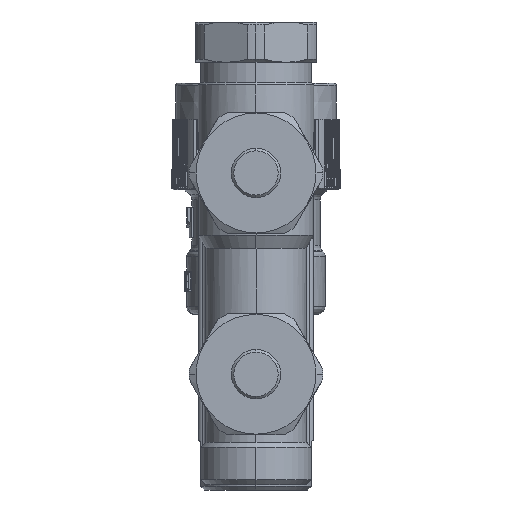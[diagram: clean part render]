
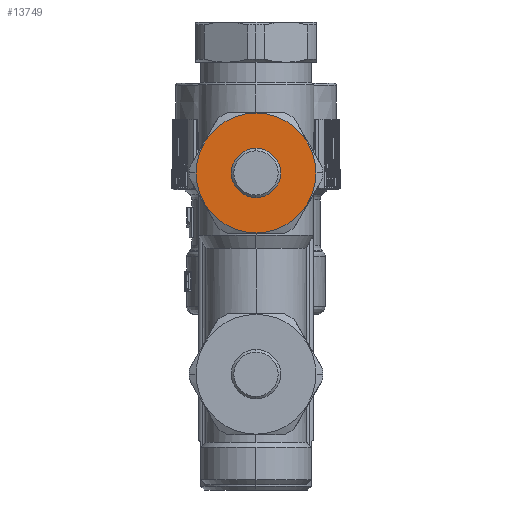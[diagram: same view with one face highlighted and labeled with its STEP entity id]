
A CAD part, front view. The second image highlights one B-rep face of the part: STEP entity #13749.
In plain terms, the highlighted planar face has unit normal (0, -1, 0).
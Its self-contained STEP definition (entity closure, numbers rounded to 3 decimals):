
#1531 = CARTESIAN_POINT ( 'NONE',  ( 0., -5.5, 66.9 ) ) ;
#1717 = EDGE_LOOP ( 'NONE', ( #9986, #39035 ) ) ;
#1925 = AXIS2_PLACEMENT_3D ( 'NONE', #39015, #13993, #17099 ) ;
#2008 = DIRECTION ( 'NONE',  ( 0., 1., 0. ) ) ;
#3081 = VERTEX_POINT ( 'NONE', #1531 ) ;
#3442 = CIRCLE ( 'NONE', #7962, 11.9 ) ;
#4151 = CIRCLE ( 'NONE', #43879, 11.9 ) ;
#6042 = ORIENTED_EDGE ( 'NONE', *, *, #30550, .T. ) ;
#6796 = CARTESIAN_POINT ( 'NONE',  ( -11.9, -5.5, 62. ) ) ;
#7962 = AXIS2_PLACEMENT_3D ( 'NONE', #28957, #43512, #33170 ) ;
#8089 = VERTEX_POINT ( 'NONE', #6796 ) ;
#8328 = VERTEX_POINT ( 'NONE', #30252 ) ;
#8900 = EDGE_CURVE ( 'NONE', #16918, #8089, #4151, .T. ) ;
#9986 = ORIENTED_EDGE ( 'NONE', *, *, #8900, .F. ) ;
#12166 = DIRECTION ( 'NONE',  ( 0., 1., 0. ) ) ;
#12522 = EDGE_CURVE ( 'NONE', #8089, #16918, #3442, .T. ) ;
#13612 = DIRECTION ( 'NONE',  ( 0., 1., 0. ) ) ;
#13749 = ADVANCED_FACE ( 'NONE', ( #38480, #29017 ), #29739, .F. ) ;
#13993 = DIRECTION ( 'NONE',  ( 0., 1., 0. ) ) ;
#16918 = VERTEX_POINT ( 'NONE', #35400 ) ;
#17013 = CARTESIAN_POINT ( 'NONE',  ( 0., -5.5, 62. ) ) ;
#17099 = DIRECTION ( 'NONE',  ( -1., 0., 0. ) ) ;
#19490 = DIRECTION ( 'NONE',  ( 0., 0., 1. ) ) ;
#20291 = CIRCLE ( 'NONE', #1925, 4.9 ) ;
#24096 = EDGE_CURVE ( 'NONE', #3081, #8328, #20291, .T. ) ;
#27458 = AXIS2_PLACEMENT_3D ( 'NONE', #17013, #13612, #41727 ) ;
#28957 = CARTESIAN_POINT ( 'NONE',  ( 0., -5.5, 62. ) ) ;
#29017 = FACE_OUTER_BOUND ( 'NONE', #1717, .T. ) ;
#29739 = PLANE ( 'NONE',  #35424 ) ;
#30048 = CARTESIAN_POINT ( 'NONE',  ( 0., -5.5, 62. ) ) ;
#30252 = CARTESIAN_POINT ( 'NONE',  ( 0., -5.5, 57.1 ) ) ;
#30496 = DIRECTION ( 'NONE',  ( 1., 0., 0. ) ) ;
#30550 = EDGE_CURVE ( 'NONE', #8328, #3081, #40130, .T. ) ;
#33170 = DIRECTION ( 'NONE',  ( 1., 0., 0. ) ) ;
#33935 = CARTESIAN_POINT ( 'NONE',  ( 0., -5.5, 62. ) ) ;
#35400 = CARTESIAN_POINT ( 'NONE',  ( 11.9, -5.5, 62. ) ) ;
#35424 = AXIS2_PLACEMENT_3D ( 'NONE', #30048, #12166, #19490 ) ;
#37513 = ORIENTED_EDGE ( 'NONE', *, *, #24096, .T. ) ;
#38480 = FACE_BOUND ( 'NONE', #39975, .T. ) ;
#39015 = CARTESIAN_POINT ( 'NONE',  ( 0., -5.5, 62. ) ) ;
#39035 = ORIENTED_EDGE ( 'NONE', *, *, #12522, .F. ) ;
#39975 = EDGE_LOOP ( 'NONE', ( #37513, #6042 ) ) ;
#40130 = CIRCLE ( 'NONE', #27458, 4.9 ) ;
#41727 = DIRECTION ( 'NONE',  ( -1., 0., 0. ) ) ;
#43512 = DIRECTION ( 'NONE',  ( 0., 1., 0. ) ) ;
#43879 = AXIS2_PLACEMENT_3D ( 'NONE', #33935, #2008, #30496 ) ;
